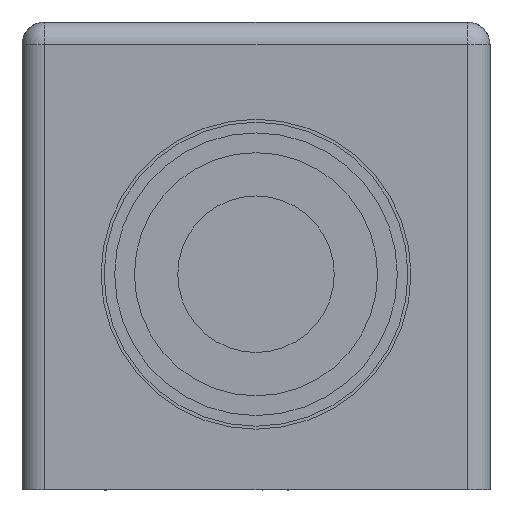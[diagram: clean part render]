
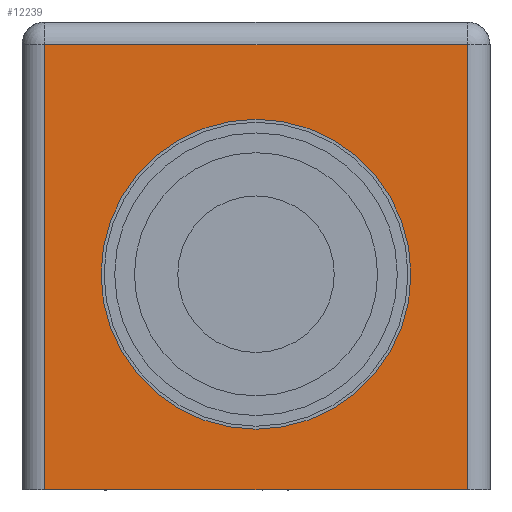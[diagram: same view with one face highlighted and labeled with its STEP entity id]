
A CAD part, front view. The second image highlights one B-rep face of the part: STEP entity #12239.
In plain terms, the highlighted planar face has unit normal (0, -1, 0).
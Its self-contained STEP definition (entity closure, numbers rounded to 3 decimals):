
#798 = VERTEX_POINT ( 'NONE', #17258 ) ;
#802 = EDGE_CURVE ( 'NONE', #803, #798, #17257, .T. ) ;
#803 = VERTEX_POINT ( 'NONE', #17253 ) ;
#5074 = CARTESIAN_POINT ( 'NONE',  ( 0., -51.5, -8.2 ) ) ;
#5075 = DIRECTION ( 'NONE',  ( 0., 0., -1. ) ) ;
#5076 = DIRECTION ( 'NONE',  ( 0., -1., 0. ) ) ;
#5077 = CARTESIAN_POINT ( 'NONE',  ( 0., -51.5, 2. ) ) ;
#5078 = AXIS2_PLACEMENT_3D ( 'NONE', #5077, #5076, #5075 ) ;
#5079 = CIRCLE ( 'NONE', #5078, 10.2 ) ;
#5091 = CARTESIAN_POINT ( 'NONE',  ( 0., -51.5, 12.2 ) ) ;
#5442 = AXIS2_PLACEMENT_3D ( 'NONE', #5505, #5504, #5503 ) ;
#5443 = PLANE ( 'NONE',  #5442 ) ;
#5444 = FACE_OUTER_BOUND ( 'NONE', #12244, .T. ) ;
#5449 = FACE_BOUND ( 'NONE', #12240, .T. ) ;
#5498 = CARTESIAN_POINT ( 'NONE',  ( 13.9, -51.5, 17.1 ) ) ;
#5499 = DIRECTION ( 'NONE',  ( 0., 0., -1. ) ) ;
#5500 = DIRECTION ( 'NONE',  ( 0., -1., 0. ) ) ;
#5501 = CARTESIAN_POINT ( 'NONE',  ( 0., -51.5, 2. ) ) ;
#5502 = AXIS2_PLACEMENT_3D ( 'NONE', #5501, #5500, #5499 ) ;
#5503 = DIRECTION ( 'NONE',  ( 0., 0., 1. ) ) ;
#5504 = DIRECTION ( 'NONE',  ( 0., 1., 0. ) ) ;
#5505 = CARTESIAN_POINT ( 'NONE',  ( 0., -51.5, 18.6 ) ) ;
#5506 = CIRCLE ( 'NONE', #5502, 10.2 ) ;
#5568 = DIRECTION ( 'NONE',  ( -1., 0., 0. ) ) ;
#5569 = VECTOR ( 'NONE', #5568, 1000. ) ;
#5570 = CARTESIAN_POINT ( 'NONE',  ( 0., -51.5, 17.1 ) ) ;
#5571 = LINE ( 'NONE', #5570, #5569 ) ;
#5572 = DIRECTION ( 'NONE',  ( 0., 0., -1. ) ) ;
#5573 = VECTOR ( 'NONE', #5572, 1000. ) ;
#5574 = CARTESIAN_POINT ( 'NONE',  ( 13.9, -51.5, 18.6 ) ) ;
#5575 = LINE ( 'NONE', #5574, #5573 ) ;
#5624 = DIRECTION ( 'NONE',  ( 0., 0., -1. ) ) ;
#5625 = VECTOR ( 'NONE', #5624, 1000. ) ;
#5626 = CARTESIAN_POINT ( 'NONE',  ( -13.9, -51.5, 18.6 ) ) ;
#5627 = LINE ( 'NONE', #5626, #5625 ) ;
#5628 = CARTESIAN_POINT ( 'NONE',  ( -13.9, -51.5, 17.1 ) ) ;
#12011 = VERTEX_POINT ( 'NONE', #5091 ) ;
#12017 = EDGE_CURVE ( 'NONE', #12011, #12018, #5079, .T. ) ;
#12018 = VERTEX_POINT ( 'NONE', #5074 ) ;
#12239 = ADVANCED_FACE ( 'NONE', ( #5449, #5444 ), #5443, .F. ) ;
#12240 = EDGE_LOOP ( 'NONE', ( #12241, #12243 ) ) ;
#12241 = ORIENTED_EDGE ( 'NONE', *, *, #12242, .F. ) ;
#12242 = EDGE_CURVE ( 'NONE', #12018, #12011, #5506, .T. ) ;
#12243 = ORIENTED_EDGE ( 'NONE', *, *, #12017, .F. ) ;
#12244 = EDGE_LOOP ( 'NONE', ( #12245, #12304, #12306, #12309 ) ) ;
#12245 = ORIENTED_EDGE ( 'NONE', *, *, #802, .T. ) ;
#12246 = VERTEX_POINT ( 'NONE', #5498 ) ;
#12304 = ORIENTED_EDGE ( 'NONE', *, *, #12305, .F. ) ;
#12305 = EDGE_CURVE ( 'NONE', #12246, #798, #5575, .T. ) ;
#12306 = ORIENTED_EDGE ( 'NONE', *, *, #12307, .T. ) ;
#12307 = EDGE_CURVE ( 'NONE', #12246, #12308, #5571, .T. ) ;
#12308 = VERTEX_POINT ( 'NONE', #5628 ) ;
#12309 = ORIENTED_EDGE ( 'NONE', *, *, #12310, .T. ) ;
#12310 = EDGE_CURVE ( 'NONE', #12308, #803, #5627, .T. ) ;
#17253 = CARTESIAN_POINT ( 'NONE',  ( -13.9, -51.5, -12.2 ) ) ;
#17254 = DIRECTION ( 'NONE',  ( 1., 0., 0. ) ) ;
#17255 = VECTOR ( 'NONE', #17254, 1000. ) ;
#17256 = CARTESIAN_POINT ( 'NONE',  ( 0., -51.5, -12.2 ) ) ;
#17257 = LINE ( 'NONE', #17256, #17255 ) ;
#17258 = CARTESIAN_POINT ( 'NONE',  ( 13.9, -51.5, -12.2 ) ) ;
